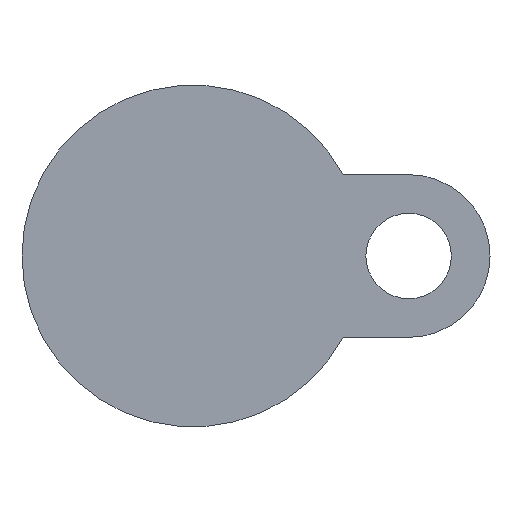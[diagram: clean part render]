
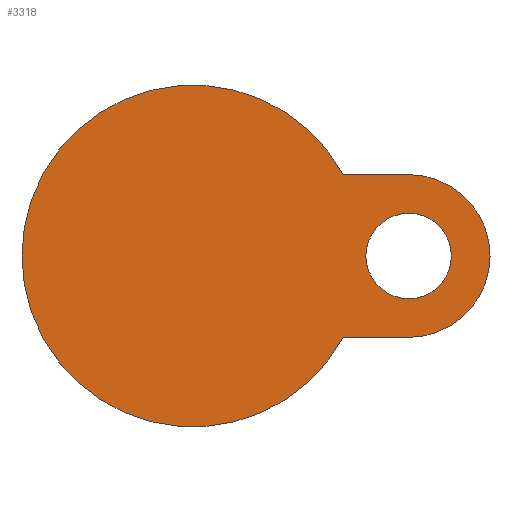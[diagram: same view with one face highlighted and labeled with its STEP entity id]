
A CAD part, front view. The second image highlights one B-rep face of the part: STEP entity #3318.
In plain terms, the highlighted planar face has unit normal (0, -1, 0).
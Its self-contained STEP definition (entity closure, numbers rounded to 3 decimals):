
#48 = AXIS2_PLACEMENT_3D ( 'NONE', #209, #652, #704 ) ;
#83 = EDGE_CURVE ( 'NONE', #4194, #1781, #5417, .T. ) ;
#209 = CARTESIAN_POINT ( 'NONE',  ( 26.5, -12., 0. ) ) ;
#287 = DIRECTION ( 'NONE',  ( 0., -1., 0. ) ) ;
#333 = VERTEX_POINT ( 'NONE', #3041 ) ;
#383 = VERTEX_POINT ( 'NONE', #2358 ) ;
#388 = DIRECTION ( 'NONE',  ( 0., -1., 0. ) ) ;
#464 = LINE ( 'NONE', #5150, #2040 ) ;
#628 = CIRCLE ( 'NONE', #1347, 5.25 ) ;
#652 = DIRECTION ( 'NONE',  ( 0., -1., 0. ) ) ;
#703 = DIRECTION ( 'NONE',  ( 1., 0., 0. ) ) ;
#704 = DIRECTION ( 'NONE',  ( 1., 0., 0. ) ) ;
#725 = DIRECTION ( 'NONE',  ( 0., -1., 0. ) ) ;
#820 = ORIENTED_EDGE ( 'NONE', *, *, #3955, .F. ) ;
#877 = ORIENTED_EDGE ( 'NONE', *, *, #3548, .F. ) ;
#922 = DIRECTION ( 'NONE',  ( -1., 0., 0. ) ) ;
#1175 = CARTESIAN_POINT ( 'NONE',  ( 0., -12., 0. ) ) ;
#1243 = EDGE_CURVE ( 'NONE', #2069, #2351, #3796, .T. ) ;
#1287 = CARTESIAN_POINT ( 'NONE',  ( 26.5, -12., 10. ) ) ;
#1347 = AXIS2_PLACEMENT_3D ( 'NONE', #2385, #388, #3670 ) ;
#1650 = VERTEX_POINT ( 'NONE', #3656 ) ;
#1708 = DIRECTION ( 'NONE',  ( -1., 0., 0. ) ) ;
#1727 = CARTESIAN_POINT ( 'NONE',  ( 26.5, -12., -10. ) ) ;
#1778 = CARTESIAN_POINT ( 'NONE',  ( 18.466, -12., 10. ) ) ;
#1781 = VERTEX_POINT ( 'NONE', #1727 ) ;
#1867 = CIRCLE ( 'NONE', #4993, 10. ) ;
#1881 = EDGE_LOOP ( 'NONE', ( #2199, #3685, #2524, #2212, #3276, #5023 ) ) ;
#1975 = DIRECTION ( 'NONE',  ( 1., 0., 0. ) ) ;
#2001 = DIRECTION ( 'NONE',  ( -1., 0., 0. ) ) ;
#2040 = VECTOR ( 'NONE', #1708, 1000. ) ;
#2064 = DIRECTION ( 'NONE',  ( 1., 0., 0. ) ) ;
#2069 = VERTEX_POINT ( 'NONE', #3810 ) ;
#2199 = ORIENTED_EDGE ( 'NONE', *, *, #4532, .F. ) ;
#2212 = ORIENTED_EDGE ( 'NONE', *, *, #3327, .T. ) ;
#2315 = CARTESIAN_POINT ( 'NONE',  ( 26.5, -12., 0. ) ) ;
#2343 = PLANE ( 'NONE',  #5439 ) ;
#2351 = VERTEX_POINT ( 'NONE', #1778 ) ;
#2358 = CARTESIAN_POINT ( 'NONE',  ( 31.75, -12., 0. ) ) ;
#2385 = CARTESIAN_POINT ( 'NONE',  ( 26.5, -12., 0. ) ) ;
#2395 = FACE_OUTER_BOUND ( 'NONE', #1881, .T. ) ;
#2423 = CARTESIAN_POINT ( 'NONE',  ( 26.5, -12., -10. ) ) ;
#2439 = AXIS2_PLACEMENT_3D ( 'NONE', #3015, #4325, #922 ) ;
#2524 = ORIENTED_EDGE ( 'NONE', *, *, #4401, .T. ) ;
#2543 = AXIS2_PLACEMENT_3D ( 'NONE', #3383, #4118, #2001 ) ;
#2674 = CARTESIAN_POINT ( 'NONE',  ( 18.466, -12., -10. ) ) ;
#2832 = VECTOR ( 'NONE', #703, 1000. ) ;
#2930 = EDGE_CURVE ( 'NONE', #4377, #2351, #464, .T. ) ;
#3015 = CARTESIAN_POINT ( 'NONE',  ( 0., -12., 0. ) ) ;
#3041 = CARTESIAN_POINT ( 'NONE',  ( 21.25, -12., 0. ) ) ;
#3255 = AXIS2_PLACEMENT_3D ( 'NONE', #4639, #725, #2064 ) ;
#3276 = ORIENTED_EDGE ( 'NONE', *, *, #2930, .T. ) ;
#3318 = ADVANCED_FACE ( 'NONE', ( #2395, #5001 ), #2343, .T. ) ;
#3327 = EDGE_CURVE ( 'NONE', #1650, #4377, #1867, .T. ) ;
#3383 = CARTESIAN_POINT ( 'NONE',  ( 0., -12., 0. ) ) ;
#3548 = EDGE_CURVE ( 'NONE', #383, #333, #628, .T. ) ;
#3611 = CIRCLE ( 'NONE', #2439, 21. ) ;
#3656 = CARTESIAN_POINT ( 'NONE',  ( 36.5, -12., 0. ) ) ;
#3670 = DIRECTION ( 'NONE',  ( 1., 0., 0. ) ) ;
#3685 = ORIENTED_EDGE ( 'NONE', *, *, #83, .T. ) ;
#3796 = CIRCLE ( 'NONE', #2543, 21. ) ;
#3810 = CARTESIAN_POINT ( 'NONE',  ( -21., -12., 0. ) ) ;
#3955 = EDGE_CURVE ( 'NONE', #333, #383, #4403, .T. ) ;
#3990 = EDGE_LOOP ( 'NONE', ( #877, #820 ) ) ;
#4118 = DIRECTION ( 'NONE',  ( 0., 1., 0. ) ) ;
#4123 = DIRECTION ( 'NONE',  ( 1., 0., 0. ) ) ;
#4194 = VERTEX_POINT ( 'NONE', #2674 ) ;
#4325 = DIRECTION ( 'NONE',  ( 0., 1., 0. ) ) ;
#4377 = VERTEX_POINT ( 'NONE', #1287 ) ;
#4401 = EDGE_CURVE ( 'NONE', #1781, #1650, #5038, .T. ) ;
#4403 = CIRCLE ( 'NONE', #48, 5.25 ) ;
#4525 = DIRECTION ( 'NONE',  ( 0., -1., 0. ) ) ;
#4532 = EDGE_CURVE ( 'NONE', #4194, #2069, #3611, .T. ) ;
#4639 = CARTESIAN_POINT ( 'NONE',  ( 26.5, -12., 0. ) ) ;
#4993 = AXIS2_PLACEMENT_3D ( 'NONE', #2315, #287, #1975 ) ;
#5001 = FACE_BOUND ( 'NONE', #3990, .T. ) ;
#5023 = ORIENTED_EDGE ( 'NONE', *, *, #1243, .F. ) ;
#5038 = CIRCLE ( 'NONE', #3255, 10. ) ;
#5150 = CARTESIAN_POINT ( 'NONE',  ( 11.379, -12., 10. ) ) ;
#5417 = LINE ( 'NONE', #2423, #2832 ) ;
#5439 = AXIS2_PLACEMENT_3D ( 'NONE', #1175, #4525, #4123 ) ;
